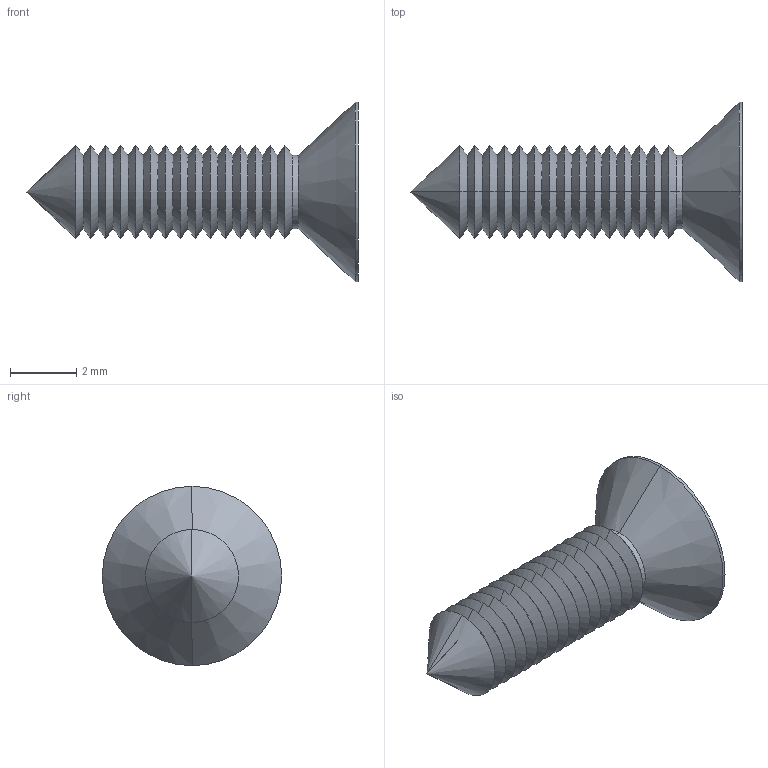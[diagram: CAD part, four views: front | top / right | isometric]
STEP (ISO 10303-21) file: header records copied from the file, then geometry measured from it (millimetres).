
FILE_DESCRIPTION (( 'STEP AP214' ), '1' );
FILE_NAME ('Cargol 2,1x6,5 GP3.STEP', '2017-07-19T08:11:58', ( 'aaa' ), ( '' ), 'SwSTEP 2.0', 'SolidWorks 2013', '' );
FILE_SCHEMA (( 'AUTOMOTIVE_DESIGN' ));
Length unit declared in the file: millimetre
Products named in the file (1): Cargol 2,1x6,5 GP3
Bounding box: 10 x 5.4 x 5.4 mm (x, y, z)
Volume: 58 mm3; surface area: 150.5 mm2
Topology: 1 solids, 1 shells, 80 faces, 170 edges, 91 vertices
Faces by surface type: cone 64, plane 14, cylinder 2
Entity records: 2108 total; most frequent: DIRECTION 396, CARTESIAN_POINT 340, ORIENTED_EDGE 336, EDGE_CURVE 168, AXIS2_PLACEMENT_3D 147, VECTOR 102, LINE 102, VERTEX_POINT 91
